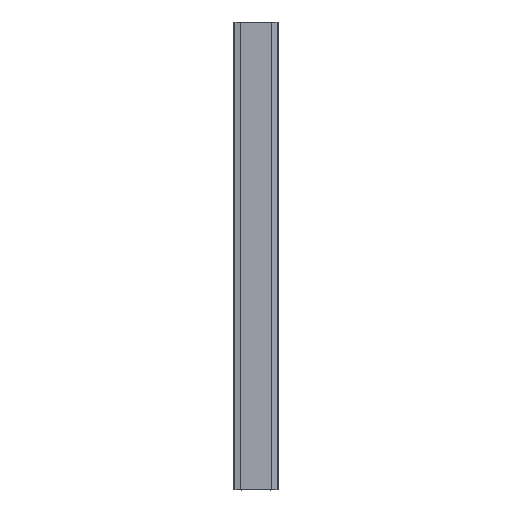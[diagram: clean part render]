
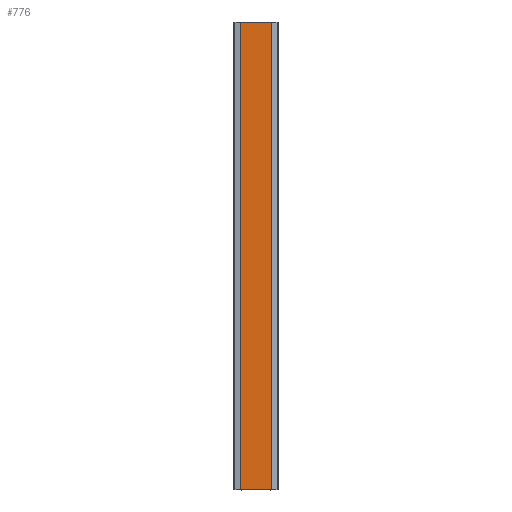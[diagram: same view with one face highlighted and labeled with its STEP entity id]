
A CAD part, top view. The second image highlights one B-rep face of the part: STEP entity #776.
In plain terms, the highlighted planar face has unit normal (0, 0, 1).
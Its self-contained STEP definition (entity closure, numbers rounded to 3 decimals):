
#100=FACE_OUTER_BOUND($,#140,.T.);
#140=EDGE_LOOP($,(#625,#626,#627,#628));
#214=LINE($,#1295,#292);
#215=LINE($,#1298,#293);
#216=LINE($,#1300,#294);
#217=LINE($,#1301,#295);
#292=VECTOR($,#1061,100.);
#293=VECTOR($,#1064,6.657);
#294=VECTOR($,#1065,6.657);
#295=VECTOR($,#1066,100.);
#369=VERTEX_POINT($,#1291);
#370=VERTEX_POINT($,#1293);
#371=VERTEX_POINT($,#1297);
#372=VERTEX_POINT($,#1299);
#478=EDGE_CURVE($,#369,#370,#214,.T.);
#479=EDGE_CURVE($,#371,#369,#215,.T.);
#480=EDGE_CURVE($,#372,#370,#216,.T.);
#481=EDGE_CURVE($,#371,#372,#217,.T.);
#625=ORIENTED_EDGE($,*,*,#479,.T.);
#626=ORIENTED_EDGE($,*,*,#478,.T.);
#627=ORIENTED_EDGE($,*,*,#480,.F.);
#628=ORIENTED_EDGE($,*,*,#481,.F.);
#738=PLANE($,#851);
#776=ADVANCED_FACE($,(#100),#738,.T.);
#851=AXIS2_PLACEMENT_3D($,#1296,#1062,#1063);
#1061=DIRECTION($,(0.,1.,0.));
#1062=DIRECTION('center_axis',(0.,0.,1.));
#1063=DIRECTION('ref_axis',(1.,0.,0.));
#1064=DIRECTION($,(1.,0.,0.));
#1065=DIRECTION($,(1.,0.,0.));
#1066=DIRECTION($,(0.,1.,0.));
#1291=CARTESIAN_POINT('',(-2.326,0.,6.916));
#1293=CARTESIAN_POINT('',(-2.326,100.,6.916));
#1295=CARTESIAN_POINT($,(-2.326,0.,6.916));
#1296=CARTESIAN_POINT('Origin',(-8.983,0.,6.916));
#1297=CARTESIAN_POINT('',(-8.983,0.,6.916));
#1298=CARTESIAN_POINT($,(-8.983,0.,6.916));
#1299=CARTESIAN_POINT('',(-8.983,100.,6.916));
#1300=CARTESIAN_POINT($,(-8.983,100.,6.916));
#1301=CARTESIAN_POINT($,(-8.983,0.,6.916));
